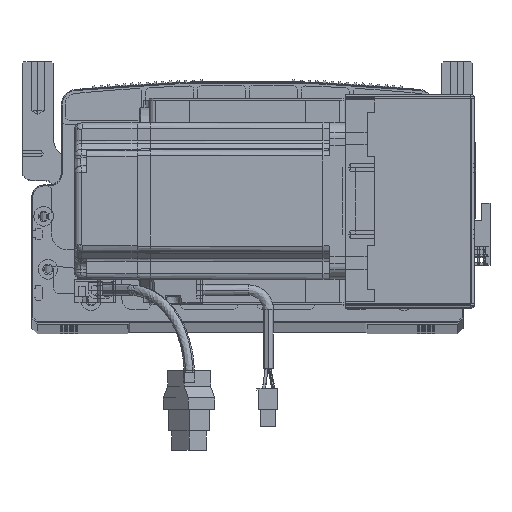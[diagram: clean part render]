
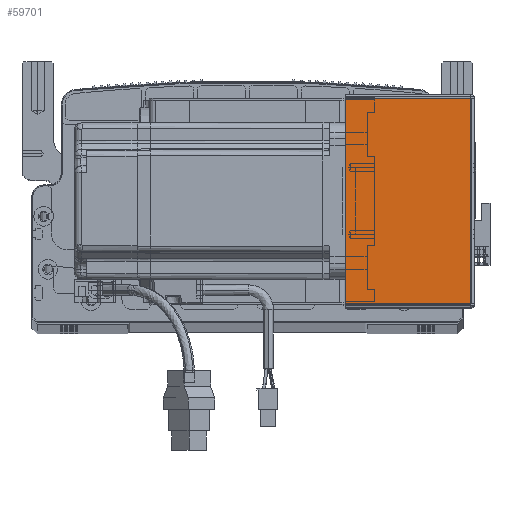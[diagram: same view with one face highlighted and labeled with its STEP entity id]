
A CAD part, top view. The second image highlights one B-rep face of the part: STEP entity #59701.
In plain terms, the highlighted planar face has unit normal (0, 0, 1) as drawn and (0, 0, -1) by its records, which use the part's own axes.
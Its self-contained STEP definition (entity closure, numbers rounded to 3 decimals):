
#561 = DIRECTION ( 'NONE',  ( 1., 0., 0. ) ) ;
#4051 = EDGE_CURVE ( 'NONE', #50530, #6219, #68497, .T. ) ;
#6219 = VERTEX_POINT ( 'NONE', #46996 ) ;
#8094 = ORIENTED_EDGE ( 'NONE', *, *, #96417, .F. ) ;
#9185 = AXIS2_PLACEMENT_3D ( 'NONE', #50463, #66026, #50147 ) ;
#11812 = VECTOR ( 'NONE', #88293, 1000. ) ;
#16860 = ORIENTED_EDGE ( 'NONE', *, *, #4051, .T. ) ;
#18814 = VECTOR ( 'NONE', #33632, 1000. ) ;
#21146 = EDGE_CURVE ( 'NONE', #71105, #44362, #56452, .T. ) ;
#23117 = CARTESIAN_POINT ( 'NONE',  ( 64.5, 105.293, -205.5 ) ) ;
#32088 = ORIENTED_EDGE ( 'NONE', *, *, #21146, .F. ) ;
#32181 = LINE ( 'NONE', #69300, #68739 ) ;
#33632 = DIRECTION ( 'NONE',  ( 0., -1., 0. ) ) ;
#36335 = VECTOR ( 'NONE', #90928, 1000. ) ;
#39496 = EDGE_LOOP ( 'NONE', ( #32088, #48155, #16860, #8094 ) ) ;
#44227 = PLANE ( 'NONE',  #9185 ) ;
#44362 = VERTEX_POINT ( 'NONE', #93128 ) ;
#46722 = CARTESIAN_POINT ( 'NONE',  ( 0.737, 105.293, -205.5 ) ) ;
#46996 = CARTESIAN_POINT ( 'NONE',  ( 64.5, 0.707, -205.5 ) ) ;
#48155 = ORIENTED_EDGE ( 'NONE', *, *, #74943, .T. ) ;
#50147 = DIRECTION ( 'NONE',  ( 1., 0., 0. ) ) ;
#50463 = CARTESIAN_POINT ( 'NONE',  ( 0., 0., -205.5 ) ) ;
#50530 = VERTEX_POINT ( 'NONE', #23117 ) ;
#56452 = LINE ( 'NONE', #61847, #36335 ) ;
#59701 = ADVANCED_FACE ( 'NONE', ( #61571 ), #44227, .F. ) ;
#61571 = FACE_OUTER_BOUND ( 'NONE', #39496, .T. ) ;
#61847 = CARTESIAN_POINT ( 'NONE',  ( 0.737, 0., -205.5 ) ) ;
#66026 = DIRECTION ( 'NONE',  ( 0., 0., 1. ) ) ;
#68497 = LINE ( 'NONE', #92830, #18814 ) ;
#68739 = VECTOR ( 'NONE', #561, 1000. ) ;
#69300 = CARTESIAN_POINT ( 'NONE',  ( 0., 105.293, -205.5 ) ) ;
#71105 = VERTEX_POINT ( 'NONE', #46722 ) ;
#74517 = LINE ( 'NONE', #97175, #11812 ) ;
#74943 = EDGE_CURVE ( 'NONE', #71105, #50530, #32181, .T. ) ;
#88293 = DIRECTION ( 'NONE',  ( 1., 0., 0. ) ) ;
#90928 = DIRECTION ( 'NONE',  ( 0., -1., 0. ) ) ;
#92830 = CARTESIAN_POINT ( 'NONE',  ( 64.5, 0., -205.5 ) ) ;
#93128 = CARTESIAN_POINT ( 'NONE',  ( 0.737, 0.707, -205.5 ) ) ;
#96417 = EDGE_CURVE ( 'NONE', #44362, #6219, #74517, .T. ) ;
#97175 = CARTESIAN_POINT ( 'NONE',  ( 0., 0.707, -205.5 ) ) ;
